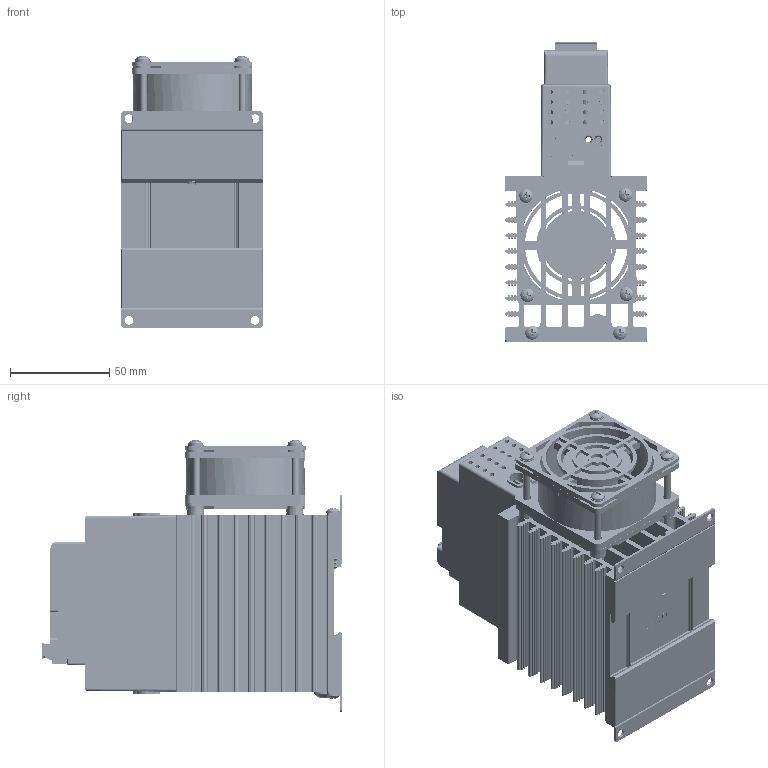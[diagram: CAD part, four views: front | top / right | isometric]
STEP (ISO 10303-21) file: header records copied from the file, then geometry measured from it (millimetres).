
FILE_DESCRIPTION(/* description */ (''),/* implementation_level */ '2;1');
FILE_NAME(/* name */ '1-phase EtherCAT 80A w-tabs.stp',/* time_stamp */ '2024-11-12T08:57:57-06:00',/* author */ ('ErikG'),/* organization */ (''),/* preprocessor_version */ 'ST-DEVELOPER v20',/* originating_system */ 'Autodesk Inventor 2025',/* authorisation */ '');
FILE_SCHEMA (('AUTOMOTIVE_DESIGN { 1 0 10303 214 3 1 1 }'));
Products named in the file (37): 3001631e; 3001761; 1001600G; P11; P6; fci 6 pin header OQ06120000J0G; fci 6 pin headerOQ06120000J0G half 1; fci 5 pin header OQ05120000J0G half 2; fci 6 pin connector TS06110B00J0G; fci 5 pin connector TS05110B00J0G LEFT HALF; fci 5 pin connector TS05110B00J0G RIGHT HALF; P3; usb-c31-s-vt-cs4-bk-pp-t-r-model ADAMTECH; P5; 74990101210 (rev1); base; shielding; top board erase; SW3; SW2; SH-7070TA; _SH-7070A_body; _SH-700-Without knob (Minus slot); 3001763; 3001755; 3001756; 3001747; 0060702-1032-0375; 3001753; 0060002-0632-0375; 0060783-0610-010.ipt; spring; 0060002-0632-1175; 62111-0006-0; 2R36_SQ_FAN_1R0 depth; 3001773; 3001772
Assembly tree (50 placements, depth 6):
  3001631e
    3001761  x3
    1001600G
      P11
        74990101210 (rev1)
          base
          shielding
      P6
        fci 6 pin header OQ06120000J0G
          fci 6 pin headerOQ06120000J0G half 1
          fci 5 pin header OQ05120000J0G half 2
          fci 6 pin connector TS06110B00J0G
            fci 5 pin connector TS05110B00J0G LEFT HALF
            fci 5 pin connector TS05110B00J0G RIGHT HALF
      P3
        usb-c31-s-vt-cs4-bk-pp-t-r-model ADAMTECH
      P5
        74990101210 (rev1)
          base
          shielding
      top board erase
        SW3
          SH-7070TA
            _SH-7070A_body
            _SH-700-Without knob (Minus slot)
        SW2
          SH-7070TA
            _SH-7070A_body
            _SH-700-Without knob (Minus slot)
    3001763
    3001755
    3001756
    3001747
    0060702-1032-0375
    3001753  x2
    0060002-0632-0375  x4
    0060783-0610-010.ipt
    spring
    0060002-0632-1175  x4
    62111-0006-0  x4
    2R36_SQ_FAN_1R0 depth
    3001773
    3001772
Bounding box: 71.12 x 151.58 x 136.93 mm (x, y, z)
Volume: 310495.7 mm3; surface area: 255227.4 mm2
Topology: 41 solids, 135 shells, 10330 faces, 28834 edges, 18944 vertices
Faces by surface type: plane 7834, cylinder 1870, cone 326, bspline 163, torus 110, sphere 27
Full cylindrical faces by diameter (mm): 0.254 x1, 0.45 x2, 0.55 x2, 0.65 x2, 1 x2, 1.2 x2, 2.3 x12, 2.642 x3, 2.95 x6, 3.277 x2, 3.28 x2, 3.3 x2, 3.4 x2, 3.42 x2, 3.505 x8, 4 x2, 4.293 x8, 4.318 x8, 4.826 x1, 4.917 x1, 6 x1, 6.172 x1, 6.858 x8, 7.493 x8, 9.474 x1, 34.29 x1, 57.15 x1, 59.69 x1
Entity records: 264727 total; most frequent: CARTESIAN_POINT 62438, ORIENTED_EDGE 42810, DIRECTION 39517, EDGE_CURVE 21405, LINE 16851, VECTOR 16851, VERTEX_POINT 14070, AXIS2_PLACEMENT_3D 11333
